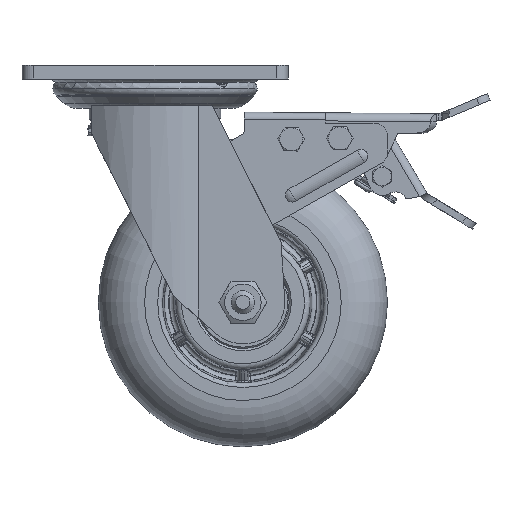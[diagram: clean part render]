
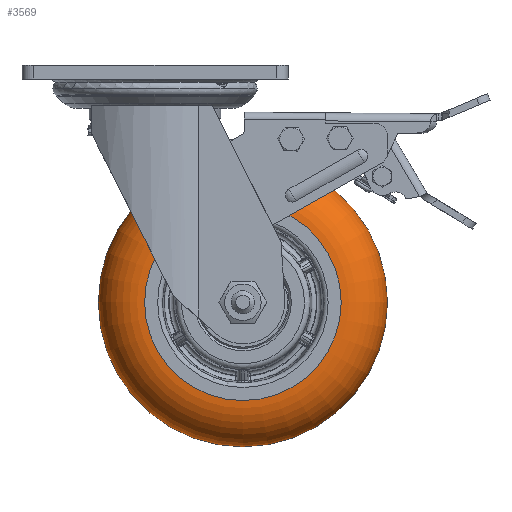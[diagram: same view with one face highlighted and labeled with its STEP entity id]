
A CAD part, front view. The second image highlights one B-rep face of the part: STEP entity #3569.
In plain terms, the highlighted toroidal (fillet/blend) face has major radius 42.5 mm and minor radius 20 mm.
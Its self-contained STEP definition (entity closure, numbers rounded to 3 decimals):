
#514=TOROIDAL_SURFACE('',#26861,42.5,20.);
#3569=ADVANCED_FACE('',(#7104,#7105),#514,.T.);
#6338=CIRCLE('',#26857,62.5);
#6340=CIRCLE('',#26860,42.5);
#7104=FACE_BOUND('',#8791,.T.);
#7105=FACE_BOUND('',#8792,.T.);
#8791=EDGE_LOOP('',(#15505));
#8792=EDGE_LOOP('',(#15506));
#15505=ORIENTED_EDGE('',*,*,#21783,.T.);
#15506=ORIENTED_EDGE('',*,*,#21781,.F.);
#18290=VERTEX_POINT('',#64351);
#18292=VERTEX_POINT('',#64356);
#21781=EDGE_CURVE('',#18290,#18290,#6338,.T.);
#21783=EDGE_CURVE('',#18292,#18292,#6340,.T.);
#26857=AXIS2_PLACEMENT_3D('',#64350,#32981,#32982);
#26860=AXIS2_PLACEMENT_3D('',#64355,#32987,#32988);
#26861=AXIS2_PLACEMENT_3D('',#64357,#32989,#32990);
#32981=DIRECTION('',(0.,1.,0.));
#32982=DIRECTION('',(1.,0.,0.));
#32987=DIRECTION('',(0.,1.,0.));
#32988=DIRECTION('',(1.,0.,0.));
#32989=DIRECTION('',(0.,1.,0.));
#32990=DIRECTION('',(-1.,0.,0.));
#64350=CARTESIAN_POINT('',(38.,-4.,-102.5));
#64351=CARTESIAN_POINT('',(100.5,-4.,-102.5));
#64355=CARTESIAN_POINT('',(38.,-24.,-102.5));
#64356=CARTESIAN_POINT('',(80.5,-24.,-102.5));
#64357=CARTESIAN_POINT('',(38.,-4.,-102.5));
